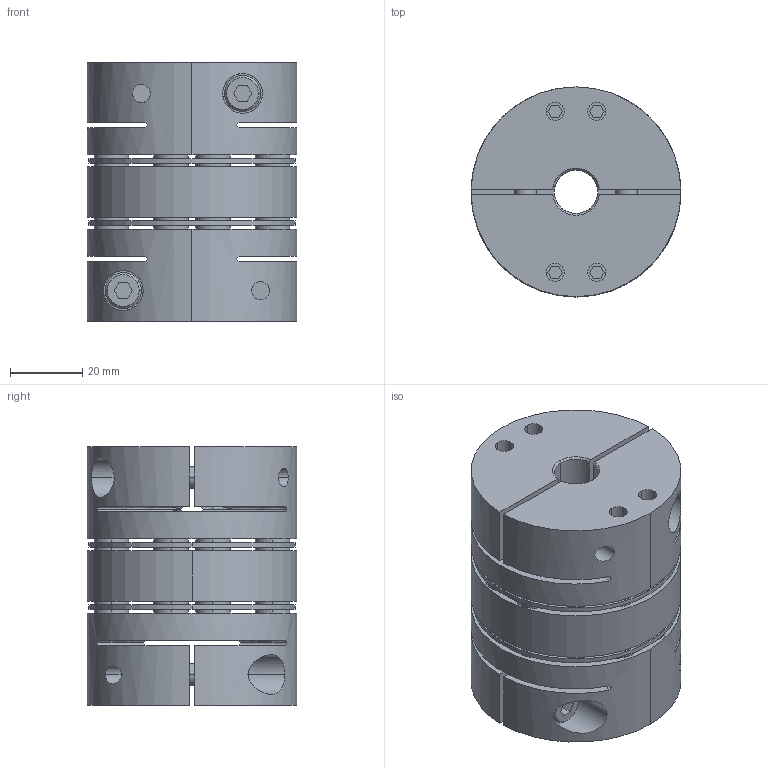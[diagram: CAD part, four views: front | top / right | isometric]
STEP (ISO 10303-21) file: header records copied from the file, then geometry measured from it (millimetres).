
FILE_DESCRIPTION((''),'2;1');
FILE_NAME('TAD-58C-12×30.stp','2022-11-13T22:13:18',(''),(''),'AutoCAD STEP 2000i','AutoCAD 2000i',', , ');
FILE_SCHEMA(('CONFIG_CONTROL_DESIGN'));
Length unit declared in the file: millimetre
Products named in the file (7): TAD-58C-12×22; 忣兜1; TA58C-22; CAP-M6×20; TA58C-12-2; TA58C-12; TAS-58C-ITA
Assembly tree (8 placements, depth 3):
  TAD-58C-12×22
    忣兜1
    TA58C-22
      CAP-M6×20
    TA58C-12-2
      CAP-M6×20
    TA58C-12
      CAP-M6×20
    TAS-58C-ITA
Bounding box: 58 x 58 x 71.5 mm (x, y, z)
Volume: 129275.5 mm3; surface area: 54956.7 mm2
Topology: 1 solids, 5 shells, 568 faces, 1367 edges, 937 vertices
Faces by surface type: plane 252, cylinder 228, cone 72, bspline 16
Entity records: 18827 total; most frequent: CARTESIAN_POINT 4986, DIRECTION 3008, ORIENTED_EDGE 2640, EDGE_CURVE 1320, AXIS2_PLACEMENT_3D 1142, VERTEX_POINT 860, EDGE_LOOP 724, VECTOR 724
